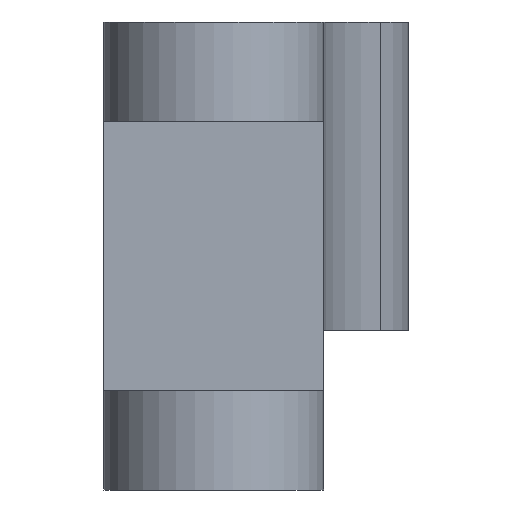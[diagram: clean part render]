
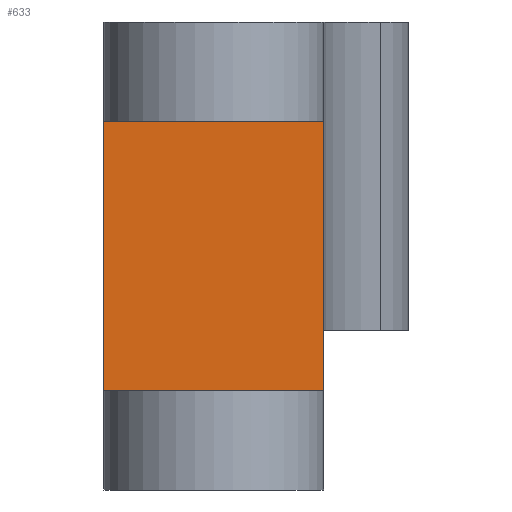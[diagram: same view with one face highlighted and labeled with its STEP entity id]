
A CAD part, front view. The second image highlights one B-rep face of the part: STEP entity #633.
In plain terms, the highlighted planar face has unit normal (0, -1, 0).
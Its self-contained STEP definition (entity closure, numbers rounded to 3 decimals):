
#178=CARTESIAN_POINT('',(0.,12.,-20.1));
#179=VERTEX_POINT('',#178);
#182=CARTESIAN_POINT('',(0.,12.,-25.5));
#183=DIRECTION('',(0.,0.,-1.));
#184=VECTOR('',#183,1.);
#185=LINE('',#182,#184);
#186=CARTESIAN_POINT('',(0.,12.,-5.4));
#187=VERTEX_POINT('',#186);
#188=EDGE_CURVE('',#187,#179,#185,.T.);
#332=CARTESIAN_POINT('',(12.,12.,-5.4));
#333=VERTEX_POINT('',#332);
#336=CARTESIAN_POINT('',(12.,12.,-5.4));
#337=DIRECTION('',(0.,0.,1.));
#338=VECTOR('',#337,1.);
#339=LINE('',#336,#338);
#340=CARTESIAN_POINT('',(12.,12.,-20.1));
#341=VERTEX_POINT('',#340);
#342=EDGE_CURVE('',#341,#333,#339,.T.);
#589=CARTESIAN_POINT('',(-8.,12.,-5.4));
#590=DIRECTION('',(1.,0.,0.));
#591=VECTOR('',#590,1.);
#592=LINE('',#589,#591);
#593=EDGE_CURVE('',#187,#333,#592,.T.);
#609=CARTESIAN_POINT('',(-8.,12.,-20.1));
#610=DIRECTION('',(1.,0.,0.));
#611=VECTOR('',#610,1.);
#612=LINE('',#609,#611);
#613=EDGE_CURVE('',#179,#341,#612,.T.);
#622=CARTESIAN_POINT('',(-8.,12.,-5.4));
#623=DIRECTION('',(0.,1.,0.));
#624=DIRECTION('',(-1.,0.,0.));
#625=AXIS2_PLACEMENT_3D('',#622,#623,#624);
#626=PLANE('',#625);
#627=ORIENTED_EDGE('',*,*,#188,.T.);
#628=ORIENTED_EDGE('',*,*,#613,.T.);
#629=ORIENTED_EDGE('',*,*,#342,.T.);
#630=ORIENTED_EDGE('',*,*,#593,.F.);
#631=EDGE_LOOP('',(#627,#628,#629,#630));
#632=FACE_OUTER_BOUND('',#631,.T.);
#633=ADVANCED_FACE('',(#632),#626,.F.);
